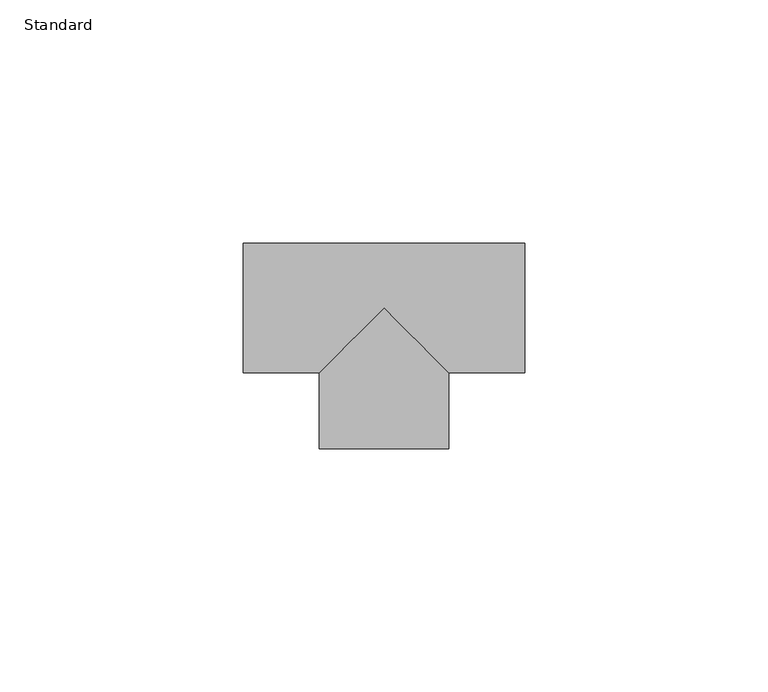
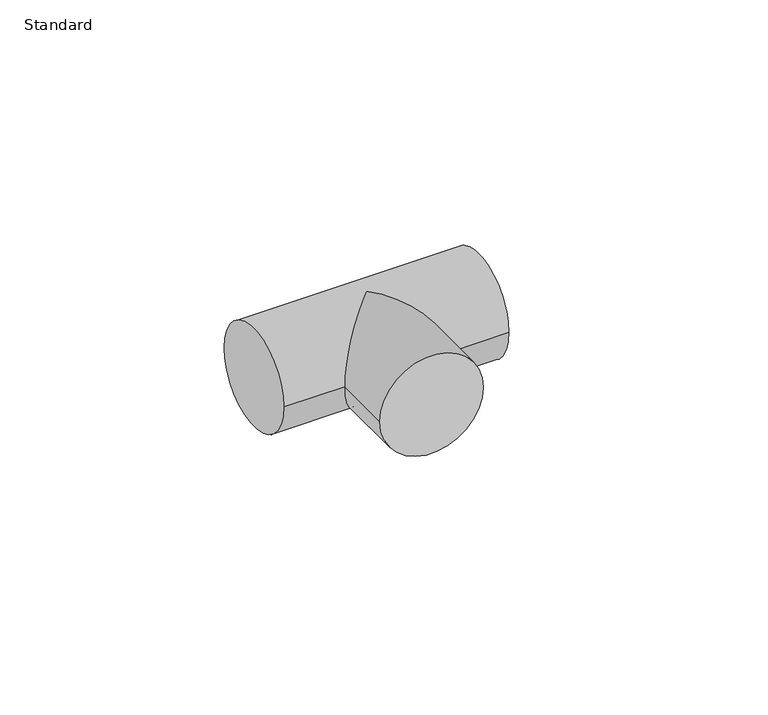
"""IFC4 building model written with IfcOpenShell, lengths in millimetres: pipe fitting geometry, Té - Générique : Standard."""

from ifc_helpers import new_model, si_unit, frame, origin, place, context, project, spatial, circle_curve, ellipse_curve, source, transform, mapped, element, save
from ifc_brep_helpers import plane_surface, cylinder_surface, advanced_brep


def standard_04981063(model_context):
    return source(origin(), model_context, "Body", "AdvancedBrep", [
        advanced_brep(
        [(-29.0, -13.35, 0.0), (-29.0, 13.35, 0.0), (29.0, -13.35, 0.0), (29.0, 13.35, 0.0), (-13.3505336, -13.35, 0.0), (0.0, 0.0, 13.35), (13.3494664, -13.35, 0.0), (0.0, 0.0, -13.35), (-13.3511592, -28.9994664, 0.0), (13.3488408, -29.0005336, 0.0)],
        [
            (0, 1, circle_curve(frame((-29.0, 0.0, 0.0), z_axis=(-1.0, 0.0, 0.0), x_axis=(0.0, 1.0, 0.0)), 13.35)),
            (1, 0, circle_curve(frame((-29.0, 0.0, 0.0), z_axis=(-1.0, 0.0, 0.0), x_axis=(0.0, 1.0, 0.0)), 13.35)),
            (2, 3, circle_curve(frame((29.0, 0.0, 0.0), z_axis=(1.0, 0.0, 0.0), x_axis=(0.0, 1.0, 0.0)), 13.35)),
            (3, 2, circle_curve(frame((29.0, 0.0, 0.0), z_axis=(1.0, 0.0, 0.0), x_axis=(0.0, 1.0, 0.0)), 13.35)),
            (0, 4),
            (4, 5, ellipse_curve(frame((0.0, 0.0, 0.0), z_axis=(-0.7070926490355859, 0.7071209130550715, 0.0), x_axis=(-0.7071209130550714, -0.707092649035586, 0.0)), 18.8801284, 13.35)),
            (5, 6, ellipse_curve(frame((0.0, 0.0, 0.0), z_axis=(0.7071209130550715, 0.7070926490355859, 0.0), x_axis=(-0.7070926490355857, 0.7071209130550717, 0.0)), 18.8793737, 13.35)),
            (6, 2),
            (3, 1),
            (6, 7, ellipse_curve(frame((0.0, 0.0, 0.0), z_axis=(0.7071209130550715, 0.7070926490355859, 0.0), x_axis=(-0.7070926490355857, 0.7071209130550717, 0.0)), 18.8793737, 13.35)),
            (7, 4, ellipse_curve(frame((0.0, 0.0, 0.0), z_axis=(-0.7070926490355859, 0.7071209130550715, 0.0), x_axis=(-0.7071209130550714, -0.707092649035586, 0.0)), 18.8801284, 13.35)),
            (8, 9, circle_curve(frame((-0.0011592, -29.0, 0.0), z_axis=(-3.9971359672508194e-05, -0.9999999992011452, 0.0), x_axis=(0.9999999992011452, -3.9971359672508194e-05, 0.0)), 13.35)),
            (9, 8, circle_curve(frame((-0.0011592, -29.0, 0.0), z_axis=(-3.9971359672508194e-05, -0.9999999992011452, 0.0), x_axis=(0.9999999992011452, -3.9971359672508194e-05, 0.0)), 13.35)),
            (9, 6),
            (4, 8),
        ],
        [
            plane_surface(frame((-29.0, 0.0, 0.0), z_axis=(-1.0, 0.0, 0.0), x_axis=(0.0, 0.0, 1.0))),
            plane_surface(frame((29.0, 0.0, 0.0), z_axis=(1.0, 0.0, 0.0), x_axis=(0.0, 0.0, 1.0))),
            cylinder_surface(frame((-29.0, 0.0, 0.0), z_axis=(-1.0, 0.0, 0.0), x_axis=(0.0, 1.0, 0.0)), 13.35),
            plane_surface(frame((-0.0011592, -29.0, 0.0), z_axis=(-3.997135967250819e-05, -0.9999999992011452, 0.0), x_axis=(0.0, 0.0, 1.0))),
            cylinder_surface(frame((0.0, 0.0, 0.0), z_axis=(3.9971359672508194e-05, 0.9999999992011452, 0.0), x_axis=(0.9999999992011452, -3.9971359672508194e-05, 0.0)), 13.35),
        ],
        [
            (0, [[1, 2]]),
            (1, [[3, 4]]),
            (2, [[-1, 5, 6, 7, 8, -4, 9]]),
            (2, [[-2, -9, -3, -8, 10, 11, -5]]),
            (3, [[12, 13]]),
            (4, [[-13, 14, -7, -6, 15]]),
            (4, [[-12, -15, -11, -10, -14]]),
        ],
    ),
    ])


if __name__ == "__main__":
    model = new_model("IFC4")
    model_context = context("Model", 3, world=origin())
    ifc_project = project(units=[si_unit("LENGTHUNIT", "METRE", prefix="MILLI")], contexts=[model_context])
    site = spatial("IfcSite", under=ifc_project)
    building = spatial("IfcBuilding", under=site)
    placement = place(None, origin())
    standard_shape = standard_04981063(model_context)
    element("IfcPipeFitting", 1, ObjectType="Té - Générique : Standard", at=placement, inside=building, context=model_context, shape_type="MappedRepresentation", body=[
        mapped(standard_shape, transform((0.0, 0.0, 0.0), x_axis=(1.0, 0.0, 0.0), y_axis=(0.0, 1.0, 0.0), z_axis=(0.0, 0.0, 1.0))),
    ])
    save(model, "model.ifc")
